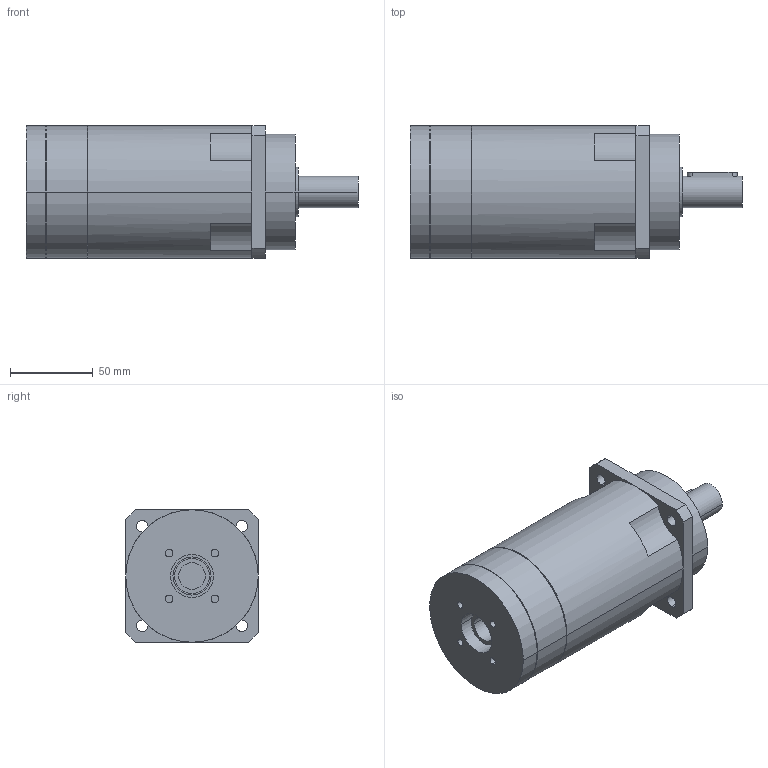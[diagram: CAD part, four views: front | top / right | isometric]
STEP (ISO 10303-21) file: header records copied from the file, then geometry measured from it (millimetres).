
FILE_DESCRIPTION(('CoCreate Modeling STEP Export'),'2;1');
FILE_NAME('GPR100_ig-48-64-80-100-120-144-180-216_19_B5_16_P09.stp','2014-08-26T11:56:09',(''),(''),'CoCreate Modeling STEP processor for AP214 (Solid Model)','CoCreate Modeling 16.00C 25-Feb-2009 (C) Parametric Technology GmbH','');
FILE_SCHEMA(('AUTOMOTIVE_DESIGN { 1 0 10303 214 1 1 1 1 }'));
Length unit declared in the file: millimetre
Products named in the file (2): GPR100_ig-48-64-80-100-120-144-180-216_19_B5_16_P09
Assembly tree (1 placements, depth 2):
  GPR100_ig-48-64-80-100-120-144-180-216_19_B5_16_P09
    GPR100_ig-48-64-80-100-120-144-180-216_19_B5_16_P09
Bounding box: 200.4 x 80 x 80 mm (x, y, z)
Volume: 794790.8 mm3; surface area: 61726.4 mm2
Topology: 1 solids, 1 shells, 96 faces, 251 edges, 173 vertices
Faces by surface type: cylinder 56, plane 34, cone 6
Entity records: 2614 total; most frequent: ORIENTED_EDGE 498, CARTESIAN_POINT 469, DIRECTION 376, EDGE_CURVE 249, VERTEX_POINT 173, AXIS2_PLACEMENT_3D 144, EDGE_LOOP 122, FACE_OUTER_BOUND 96
